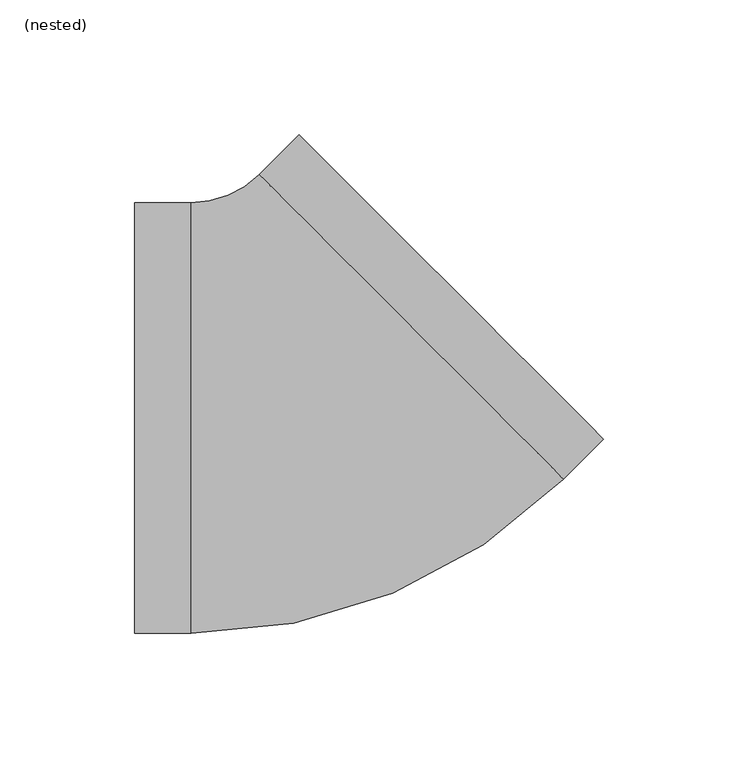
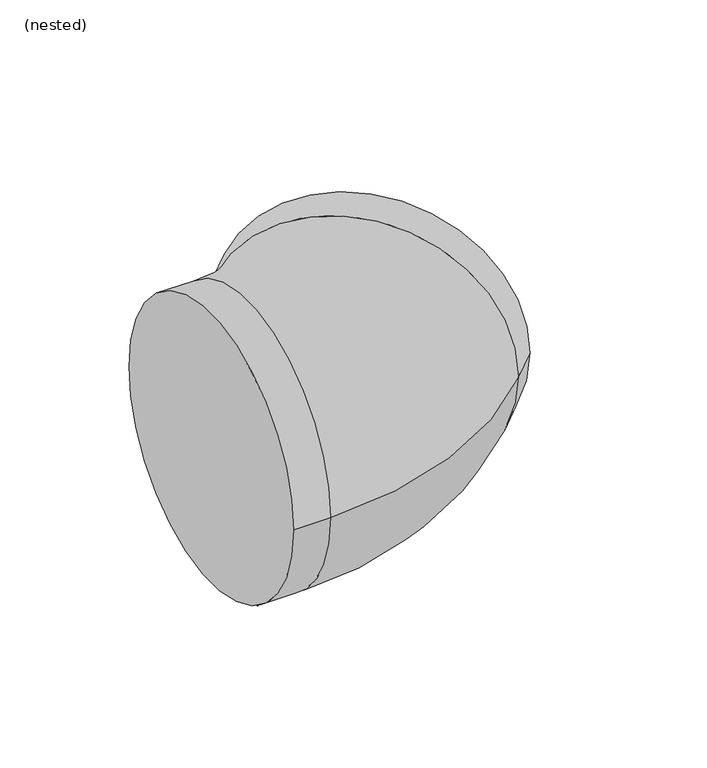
"""IFC4 building model written with IfcOpenShell, lengths in millimetres: pipe fitting geometry, NLRS_52_PIF_UN_PE bocht_SH_geb : (nested)."""

from ifc_helpers import new_model, si_unit, point, frame, origin, place, context, project, spatial, circle_curve, ellipse_curve, trimmed, source, transform, mapped, element, save
from ifc_brep_helpers import plane_surface, cylinder_surface, revolved_surface, advanced_brep


def nested_d7a01211(model_context):
    return source(origin(), model_context, "Body", "AdvancedBrep", [
        advanced_brep(
        [(-22.627417, 90.509668, 0.0), (-48.0, 80.0, 0.0), (-48.0, -80.0, 0.0), (90.509668, -22.627417, 0.0), (-69.0, -80.0, 0.0), (-69.0, 80.0, 0.0), (105.3589104, -7.7781746, 0.0), (-7.7781746, 105.3589104, 0.0)],
        [
            (0, 1, circle_curve(frame((-48.0, 115.882251, 0.0), z_axis=(0.0, 0.0, -1.0), x_axis=(0.0, -1.0, 0.0)), 35.882251)),
            (1, 2, circle_curve(frame((-48.0, 0.0, 0.0), z_axis=(1.0, 0.0, 0.0), x_axis=(0.0, 1.0, 0.0)), 80.0)),
            (2, 3, circle_curve(frame((-48.0, 115.882251, 0.0), z_axis=(0.0, 0.0, 1.0), x_axis=(0.0, -1.0, 0.0)), 195.882251)),
            (3, 0, circle_curve(frame((33.9411255, 33.9411255, 0.0), z_axis=(-0.7071067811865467, -0.7071067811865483, 0.0), x_axis=(-0.7071067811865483, 0.7071067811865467, 0.0)), 80.0)),
            (2, 1, circle_curve(frame((-48.0, 0.0, 0.0), z_axis=(1.0, 0.0, 0.0), x_axis=(0.0, 1.0, 0.0)), 80.0)),
            (0, 3, circle_curve(frame((33.9411255, 33.9411255, 0.0), z_axis=(-0.7071067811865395, -0.7071067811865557, 0.0), x_axis=(-0.7071067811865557, 0.7071067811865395, 0.0)), 80.0)),
            (4, 5, circle_curve(frame((-69.0, 0.0, 0.0), z_axis=(-1.0, 0.0, 0.0), x_axis=(0.0, 1.0, 0.0)), 80.0)),
            (5, 4, circle_curve(frame((-69.0, 0.0, 0.0), z_axis=(-1.0, 0.0, 0.0), x_axis=(0.0, 1.0, 0.0)), 80.0)),
            (4, 2),
            (1, 5),
            (6, 7, circle_curve(frame((48.7903679, 48.7903679, 0.0), z_axis=(0.707106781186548, 0.707106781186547, 0.0), x_axis=(-0.707106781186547, 0.707106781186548, 0.0)), 80.0)),
            (7, 6, circle_curve(frame((48.7903679, 48.7903679, 0.0), z_axis=(0.707106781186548, 0.707106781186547, 0.0), x_axis=(-0.707106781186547, 0.707106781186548, 0.0)), 80.0)),
            (3, 6),
            (7, 0),
        ],
        [
            revolved_surface(trimmed(ellipse_curve(frame((-48.0, 0.0, 0.0), z_axis=(-1.0, 0.0, 0.0), x_axis=(0.0, 1.0, 0.0)), 80.0, 80.0), [point((-48.0, -80.0, 0.0))], [point((-48.0, 80.0, 0.0))], True, "CARTESIAN"), (-48.0, 115.882251, 0.0), (0.0, 0.0, 1.0)),
            revolved_surface(trimmed(ellipse_curve(frame((-48.0, 0.0, 0.0), z_axis=(-1.0, 0.0, 0.0), x_axis=(0.0, 1.0, 0.0)), 80.0, 80.0), [point((-48.0, 80.0, 0.0))], [point((-48.0, -80.0, 0.0))], True, "CARTESIAN"), (-48.0, 115.882251, 0.0), (0.0, 0.0, 1.0)),
            plane_surface(frame((-69.0, 0.0, 0.0), z_axis=(-1.0, 0.0, 0.0), x_axis=(0.0, 0.0, 1.0))),
            cylinder_surface(frame((-69.0, 0.0, 0.0), z_axis=(-1.0, 0.0, 0.0), x_axis=(0.0, 1.0, 0.0)), 80.0),
            plane_surface(frame((48.7903679, 48.7903679, 0.0), z_axis=(0.7071067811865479, 0.7071067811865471, 0.0), x_axis=(0.0, 0.0, 1.0))),
            cylinder_surface(frame((33.9411255, 33.9411255, 0.0), z_axis=(-0.707106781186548, -0.707106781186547, 0.0), x_axis=(-0.707106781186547, 0.707106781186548, 0.0)), 80.0),
        ],
        [
            (0, [[1, 2, 3, 4]]),
            (1, [[-3, 5, -1, 6]]),
            (2, [[7, 8]]),
            (3, [[-7, 9, -2, 10]]),
            (3, [[-8, -10, -5, -9]]),
            (4, [[11, 12]]),
            (5, [[-4, 13, -12, 14]]),
            (5, [[-6, -14, -11, -13]]),
        ],
    ),
    ])


if __name__ == "__main__":
    model = new_model("IFC4")
    model_context = context("Model", 3, world=origin())
    ifc_project = project(units=[si_unit("LENGTHUNIT", "METRE", prefix="MILLI")], contexts=[model_context])
    site = spatial("IfcSite", under=ifc_project)
    building = spatial("IfcBuilding", under=site)
    placement = place(None, origin())
    nested_shape = nested_d7a01211(model_context)
    element("IfcPipeFitting", 1, ObjectType="NLRS_52_PIF_UN_PE bocht_SH_geb : (nested)", at=placement, inside=building, context=model_context, shape_type="MappedRepresentation", body=[
        mapped(nested_shape, transform((0.0, 0.0, 0.0), x_axis=(1.0, 0.0, 0.0), y_axis=(0.0, 1.0, 0.0), z_axis=(0.0, 0.0, 1.0))),
    ])
    save(model, "model.ifc")
